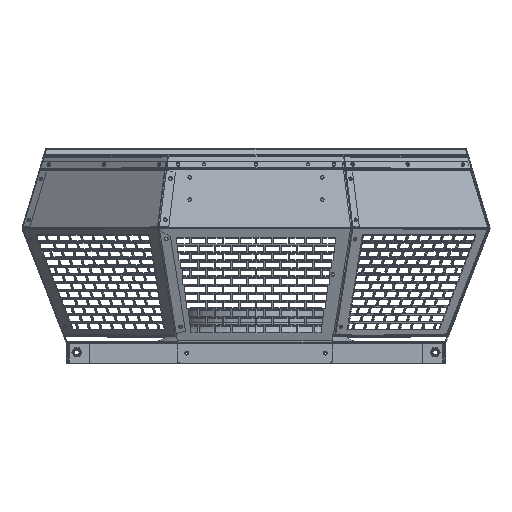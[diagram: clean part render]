
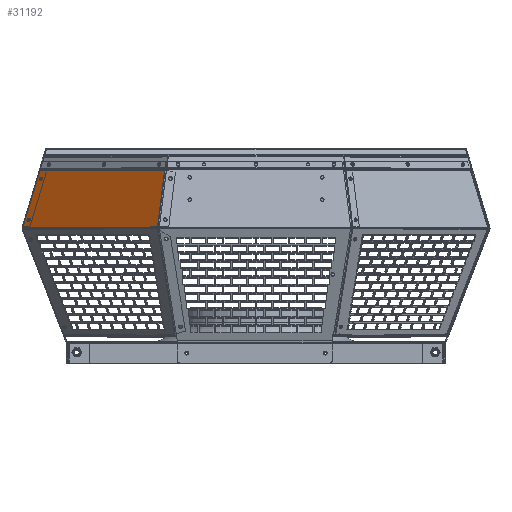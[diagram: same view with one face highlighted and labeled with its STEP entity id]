
A CAD part, top view. The second image highlights one B-rep face of the part: STEP entity #31192.
In plain terms, the highlighted planar face has unit normal (-0.677, 0.288, 0.677).
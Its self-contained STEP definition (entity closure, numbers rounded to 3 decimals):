
#2506 = CARTESIAN_POINT ( 'NONE',  ( -248.397, 180.309, 109.21 ) ) ;
#2516 = CARTESIAN_POINT ( 'NONE',  ( -249.252, 176.287, 110.067 ) ) ;
#14177 = LINE ( 'NONE', #35239, #14180 ) ;
#14180 = VECTOR ( 'NONE', #35240, 1000. ) ;
#15006 = CIRCLE ( 'NONE', #27799, 2.1 ) ;
#22751 = LINE ( 'NONE', #59306, #22757 ) ;
#22757 = VECTOR ( 'NONE', #59309, 1000. ) ;
#22847 = CIRCLE ( 'NONE', #27603, 2.1 ) ;
#22891 = CIRCLE ( 'NONE', #27599, 2.1 ) ;
#22895 = LINE ( 'NONE', #59439, #22901 ) ;
#22899 = LINE ( 'NONE', #59443, #22905 ) ;
#22901 = VECTOR ( 'NONE', #59434, 1000. ) ;
#22905 = VECTOR ( 'NONE', #59445, 1000. ) ;
#22931 = LINE ( 'NONE', #59461, #22933 ) ;
#22933 = VECTOR ( 'NONE', #59462, 1000. ) ;
#22935 = LINE ( 'NONE', #59465, #22941 ) ;
#22941 = VECTOR ( 'NONE', #59466, 1000. ) ;
#22953 = CIRCLE ( 'NONE', #27612, 2.1 ) ;
#23009 = LINE ( 'NONE', #59559, #23015 ) ;
#23015 = VECTOR ( 'NONE', #59537, 1000. ) ;
#23021 = LINE ( 'NONE', #59593, #23023 ) ;
#23023 = VECTOR ( 'NONE', #59596, 1000. ) ;
#27599 = AXIS2_PLACEMENT_3D ( 'NONE', #59435, #59436, #59437 ) ;
#27603 = AXIS2_PLACEMENT_3D ( 'NONE', #59440, #59441, #59442 ) ;
#27612 = AXIS2_PLACEMENT_3D ( 'NONE', #59479, #59480, #59481 ) ;
#27799 = AXIS2_PLACEMENT_3D ( 'NONE', #35709, #35711, #35713 ) ;
#28448 = VERTEX_POINT ( 'NONE', #113148 ) ;
#28486 = VERTEX_POINT ( 'NONE', #113168 ) ;
#28516 = VERTEX_POINT ( 'NONE', #113184 ) ;
#28603 = VERTEX_POINT ( 'NONE', #113230 ) ;
#28615 = VERTEX_POINT ( 'NONE', #113236 ) ;
#28650 = VERTEX_POINT ( 'NONE', #113254 ) ;
#28661 = VERTEX_POINT ( 'NONE', #113260 ) ;
#28668 = VERTEX_POINT ( 'NONE', #113264 ) ;
#28680 = VERTEX_POINT ( 'NONE', #113270 ) ;
#28840 = VERTEX_POINT ( 'NONE', #113358 ) ;
#31192 = ADVANCED_FACE ( 'NONE', ( #107514, #107494, #107505 ), #126283, .F. ) ;
#35239 = CARTESIAN_POINT ( 'NONE',  ( -113.937, 122., 268.346 ) ) ;
#35240 = DIRECTION ( 'NONE',  ( 0.118, 0.951, -0.286 ) ) ;
#35709 = CARTESIAN_POINT ( 'NONE',  ( -248.825, 178.298, 109.638 ) ) ;
#35711 = DIRECTION ( 'NONE',  ( 0.677, -0.288, -0.677 ) ) ;
#35713 = DIRECTION ( 'NONE',  ( 0.203, 0.958, -0.204 ) ) ;
#41481 = AXIS2_PLACEMENT_3D ( 'NONE', #126280, #126284, #126285 ) ;
#47674 = ORIENTED_EDGE ( 'NONE', *, *, #139929, .F. ) ;
#47681 = ORIENTED_EDGE ( 'NONE', *, *, #139966, .F. ) ;
#47684 = ORIENTED_EDGE ( 'NONE', *, *, #140037, .F. ) ;
#47687 = ORIENTED_EDGE ( 'NONE', *, *, #140046, .F. ) ;
#47689 = ORIENTED_EDGE ( 'NONE', *, *, #139967, .F. ) ;
#47697 = ORIENTED_EDGE ( 'NONE', *, *, #139975, .F. ) ;
#47702 = ORIENTED_EDGE ( 'NONE', *, *, #139979, .F. ) ;
#47932 = ORIENTED_EDGE ( 'NONE', *, *, #139965, .T. ) ;
#47940 = ORIENTED_EDGE ( 'NONE', *, *, #141550, .T. ) ;
#48242 = ORIENTED_EDGE ( 'NONE', *, *, #139964, .T. ) ;
#48244 = ORIENTED_EDGE ( 'NONE', *, *, #139992, .T. ) ;
#49294 = VERTEX_POINT ( 'NONE', #2516 ) ;
#49307 = VERTEX_POINT ( 'NONE', #2506 ) ;
#59306 = CARTESIAN_POINT ( 'NONE',  ( -106.066, 188.187, 248.06 ) ) ;
#59309 = DIRECTION ( 'NONE',  ( 0.707, 0., 0.707 ) ) ;
#59434 = DIRECTION ( 'NONE',  ( -0.118, -0.951, 0.286 ) ) ;
#59435 = CARTESIAN_POINT ( 'NONE',  ( -263.138, 130.758, 115.557 ) ) ;
#59436 = DIRECTION ( 'NONE',  ( 0.677, -0.288, -0.677 ) ) ;
#59437 = DIRECTION ( 'NONE',  ( 0.203, 0.958, -0.204 ) ) ;
#59439 = CARTESIAN_POINT ( 'NONE',  ( -114.396, 121.168, 268.241 ) ) ;
#59440 = CARTESIAN_POINT ( 'NONE',  ( -248.825, 178.298, 109.638 ) ) ;
#59441 = DIRECTION ( 'NONE',  ( 0.677, -0.288, -0.677 ) ) ;
#59442 = DIRECTION ( 'NONE',  ( 0.203, 0.958, -0.204 ) ) ;
#59443 = CARTESIAN_POINT ( 'NONE',  ( -112.226, 122.268, 269.941 ) ) ;
#59445 = DIRECTION ( 'NONE',  ( -0.707, 0., -0.707 ) ) ;
#59461 = CARTESIAN_POINT ( 'NONE',  ( -104.419, 125.469, 276.379 ) ) ;
#59462 = DIRECTION ( 'NONE',  ( -0.734, -0.196, -0.65 ) ) ;
#59465 = CARTESIAN_POINT ( 'NONE',  ( -114.388, 120.999, 268.321 ) ) ;
#59466 = DIRECTION ( 'NONE',  ( -0.203, -0.958, 0.204 ) ) ;
#59479 = CARTESIAN_POINT ( 'NONE',  ( -263.138, 130.758, 115.557 ) ) ;
#59480 = DIRECTION ( 'NONE',  ( 0.677, -0.288, -0.677 ) ) ;
#59481 = DIRECTION ( 'NONE',  ( 0.203, 0.958, -0.204 ) ) ;
#59537 = DIRECTION ( 'NONE',  ( 0.707, 0., 0.707 ) ) ;
#59559 = CARTESIAN_POINT ( 'NONE',  ( -98.192, 188.315, 255.872 ) ) ;
#59593 = CARTESIAN_POINT ( 'NONE',  ( -250.429, 188.468, 103.711 ) ) ;
#59596 = DIRECTION ( 'NONE',  ( 0.286, 0.951, -0.119 ) ) ;
#62659 = ORIENTED_EDGE ( 'NONE', *, *, #141000, .T. ) ;
#84181 = EDGE_LOOP ( 'NONE', ( #62659, #47674, #47681, #47684, #47687, #47689, #47702, #47697 ) ) ;
#84182 = EDGE_LOOP ( 'NONE', ( #47932, #47940 ) ) ;
#84184 = EDGE_LOOP ( 'NONE', ( #48242, #48244 ) ) ;
#107494 = FACE_BOUND ( 'NONE', #84184, .T. ) ;
#107505 = FACE_OUTER_BOUND ( 'NONE', #84181, .T. ) ;
#107514 = FACE_BOUND ( 'NONE', #84182, .T. ) ;
#113148 = CARTESIAN_POINT ( 'NONE',  ( -114.118, 122.267, 268.051 ) ) ;
#113168 = CARTESIAN_POINT ( 'NONE',  ( -113.818, 122.958, 268.057 ) ) ;
#113184 = CARTESIAN_POINT ( 'NONE',  ( -105.709, 188.187, 248.416 ) ) ;
#113230 = CARTESIAN_POINT ( 'NONE',  ( -270.347, 122.222, 111.985 ) ) ;
#113236 = CARTESIAN_POINT ( 'NONE',  ( -250.488, 188.27, 103.735 ) ) ;
#113254 = CARTESIAN_POINT ( 'NONE',  ( -262.71, 132.769, 115.129 ) ) ;
#113260 = CARTESIAN_POINT ( 'NONE',  ( -263.565, 128.748, 115.986 ) ) ;
#113264 = CARTESIAN_POINT ( 'NONE',  ( -106.066, 188.187, 248.06 ) ) ;
#113270 = CARTESIAN_POINT ( 'NONE',  ( -113.981, 122.915, 267.913 ) ) ;
#113358 = CARTESIAN_POINT ( 'NONE',  ( -106.05, 188.313, 248.023 ) ) ;
#126280 = CARTESIAN_POINT ( 'NONE',  ( -112.393, 121.481, 270.108 ) ) ;
#126283 = PLANE ( 'NONE',  #41481 ) ;
#126284 = DIRECTION ( 'NONE',  ( 0.677, -0.288, -0.677 ) ) ;
#126285 = DIRECTION ( 'NONE',  ( 0.203, 0.958, -0.204 ) ) ;
#139929 = EDGE_CURVE ( 'NONE', #28668, #28516, #22751, .T. ) ;
#139964 = EDGE_CURVE ( 'NONE', #28650, #28661, #22891, .T. ) ;
#139965 = EDGE_CURVE ( 'NONE', #49307, #49294, #22847, .T. ) ;
#139966 = EDGE_CURVE ( 'NONE', #28840, #28668, #22895, .T. ) ;
#139967 = EDGE_CURVE ( 'NONE', #28448, #28603, #22899, .T. ) ;
#139975 = EDGE_CURVE ( 'NONE', #28486, #28680, #22931, .T. ) ;
#139979 = EDGE_CURVE ( 'NONE', #28680, #28448, #22935, .T. ) ;
#139992 = EDGE_CURVE ( 'NONE', #28661, #28650, #22953, .T. ) ;
#140037 = EDGE_CURVE ( 'NONE', #28615, #28840, #23009, .T. ) ;
#140046 = EDGE_CURVE ( 'NONE', #28603, #28615, #23021, .T. ) ;
#141000 = EDGE_CURVE ( 'NONE', #28486, #28516, #14177, .T. ) ;
#141550 = EDGE_CURVE ( 'NONE', #49294, #49307, #15006, .T. ) ;
